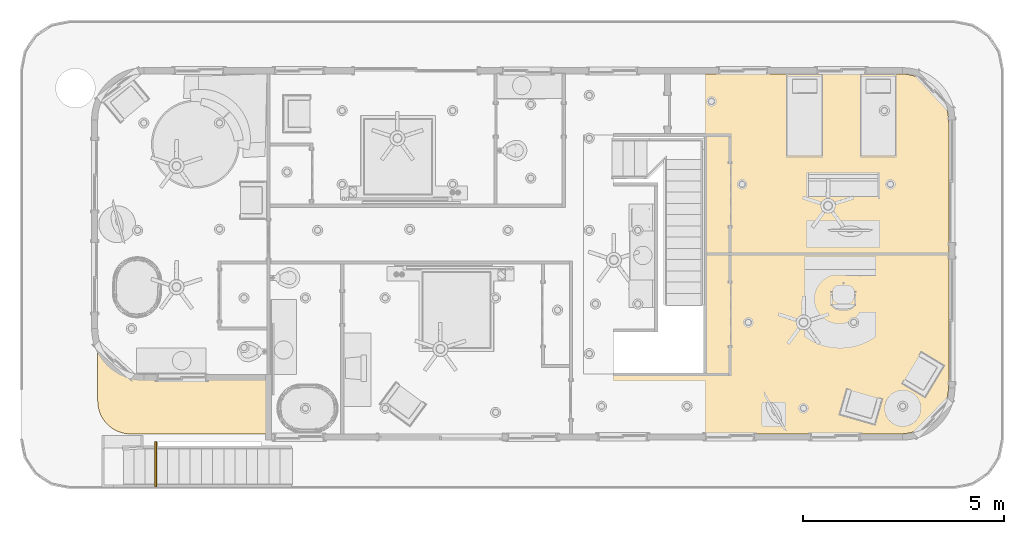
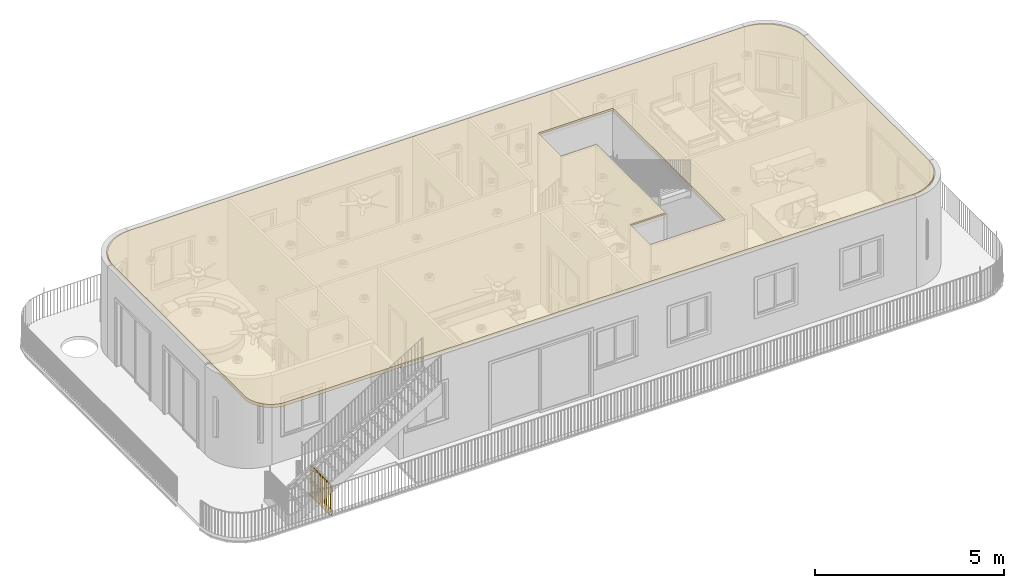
# One storey, part 10 of 28: 2 coverings, 1 railing.
"""IFC2X3 building model written with IfcOpenShell, lengths in feet."""

import ifcopenshell
import ifcopenshell.guid

model = None  # the IFC model being written
_history = None  # IfcOwnerHistory: only IFC2X3 demands one
_inside = {}  # id of a spatial element -> (the spatial element, [elements in it])
_under = {}  # id of a project, library or spatial element -> (it, [spatial elements below it])
_declared = {}  # id of a project -> (the project, [libraries it declares])
_typed = {}  # id of a type object -> (the type object, [elements of that type])
_made_of = {}  # id of a material, layer set ... -> (it, [elements and type objects made of it])


def new_model(schema):
    """Start an empty IFC model of exactly this schema.

    Asked for "IFC4X3", IfcOpenShell would pick the latest addendum, in which some entities
    have other attributes; the version numbers below select the first issue.
    IFC2X3 requires an IfcOwnerHistory on every rooted entity: one is made here for all.
    """
    global model, _history
    if schema == "IFC4X3":
        model = ifcopenshell.file(schema_version=(4, 3, 0, 0))
    else:
        model = ifcopenshell.file(schema=schema)
    _inside.clear()
    _under.clear()
    _declared.clear()
    _typed.clear()
    _made_of.clear()
    _history = None
    if model.schema == "IFC2X3":
        org = make("IfcOrganization", Name="unknown")
        user = make(
            "IfcPersonAndOrganization",
            ThePerson=make("IfcPerson", FamilyName="unknown"),
            TheOrganization=org,
        )
        app = make(
            "IfcApplication",
            ApplicationDeveloper=org,
            Version="unknown",
            ApplicationFullName="unknown",
            ApplicationIdentifier="unknown",
        )
        _history = make(
            "IfcOwnerHistory",
            OwningUser=user,
            OwningApplication=app,
            ChangeAction="ADDED",
            CreationDate=0,
        )
    return model


def make(cls, **values):
    """One entity of the class cls with the attributes given. An attribute that is None is left unset."""
    return model.create_entity(
        cls, **{name: value for name, value in values.items() if value is not None}
    )


def entity(cls, *values):
    """Any entity or typed value of the class cls, its attributes in the order of the schema. None: left unset."""
    e = model.create_entity(cls)
    for i, value in enumerate(values):
        if value is not None:
            e[i] = value
    return e


def rooted(cls, **values):
    """An entity with a GlobalId (a new one), such as an element, a storey or a relation."""
    return make(cls, GlobalId=ifcopenshell.guid.new(), OwnerHistory=_history, **values)


def si_unit(unit_type, name, prefix=None):
    """IfcSIUnit, for example si_unit("LENGTHUNIT", "METRE", prefix="MILLI")."""
    return make("IfcSIUnit", UnitType=unit_type, Prefix=prefix, Name=name)


def converted_unit(unit_type, name, factor, base, dimensions=None, offset=None):
    """IfcConversionBasedUnit, such as the inch: factor (a typed value) times the base unit."""
    return make(
        "IfcConversionBasedUnit"
        if offset is None
        else "IfcConversionBasedUnitWithOffset",
        ConversionOffset=offset,
        Dimensions=None
        if dimensions is None
        else entity("IfcDimensionalExponents", *dimensions),
        UnitType=unit_type,
        Name=name,
        ConversionFactor=make(
            "IfcMeasureWithUnit", ValueComponent=factor, UnitComponent=base
        ),
    )


def derived_unit(unit_type, elements):
    """IfcDerivedUnit: a product of units, each with its exponent."""
    return make(
        "IfcDerivedUnit",
        Elements=[
            make("IfcDerivedUnitElement", Unit=unit, Exponent=power)
            for unit, power in elements
        ],
        UnitType=unit_type,
    )


def assignment(units):
    """IfcUnitAssignment: the units of a project."""
    return None if units is None else make("IfcUnitAssignment", Units=units)


def point(xyz):
    """IfcCartesianPoint."""
    return None if xyz is None else make("IfcCartesianPoint", Coordinates=xyz)


def direction(xyz):
    """IfcDirection."""
    return None if xyz is None else make("IfcDirection", DirectionRatios=xyz)


def frame(location, z_axis=None, x_axis=None):
    """IfcAxis2Placement3D, a coordinate frame: its origin and axes. An axis left out is left unset."""
    return make(
        "IfcAxis2Placement3D",
        Location=point(location),
        Axis=direction(z_axis),
        RefDirection=direction(x_axis),
    )


def frame_2d(location, x_axis=None):
    """IfcAxis2Placement2D, a coordinate frame in the plane: its origin and x axis."""
    return make(
        "IfcAxis2Placement2D", Location=point(location), RefDirection=direction(x_axis)
    )


def origin():
    """The frame at (0, 0, 0) with its axes left unset."""
    return frame((0.0, 0.0, 0.0))


def origin_2d_with_axis():
    """The frame at (0, 0) in the plane with the x axis (1, 0) written out."""
    return frame_2d((0.0, 0.0), x_axis=(1.0, 0.0))


def place(relative_to, where):
    """IfcLocalPlacement: puts the frame where relative to a parent placement (None: the world)."""
    return make(
        "IfcLocalPlacement", PlacementRelTo=relative_to, RelativePlacement=where
    )


def context(
    kind, dimensions, precision=None, world=None, true_north=None, identifier=None
):
    """IfcGeometricRepresentationContext, for example the 3D "Model" context."""
    return make(
        "IfcGeometricRepresentationContext",
        ContextIdentifier=identifier,
        ContextType=kind,
        CoordinateSpaceDimension=dimensions,
        Precision=precision,
        WorldCoordinateSystem=world,
        TrueNorth=true_north,
    )


def subcontext(parent, identifier, kind, view, scale=None):
    """IfcGeometricRepresentationSubContext, for example "Body" below "Model"."""
    return make(
        "IfcGeometricRepresentationSubContext",
        ContextIdentifier=identifier,
        ContextType=kind,
        ParentContext=parent,
        TargetScale=scale,
        TargetView=view,
    )


def project(units=None, contexts=None):
    """IfcProject with its units and contexts."""
    return rooted(
        "IfcProject",
        Name="project",
        RepresentationContexts=contexts,
        UnitsInContext=assignment(units),
    )


def spatial(cls, under=None, at=None, **own):
    """A site, building, storey or space (cls), placed at a placement, below another one or the project."""
    s = rooted(cls, ObjectPlacement=at, **own)
    if under is not None:
        _under.setdefault(under.id(), (under, []))[1].append(s)
    return s


def polyline(points):
    """IfcPolyline through the points."""
    return make("IfcPolyline", Points=[point(p) for p in points])


def circle_curve(where, radius):
    """IfcCircle in the frame where."""
    return make("IfcCircle", Position=where, Radius=radius)


def parameter(value):
    """IfcParameterValue: where a trimmed curve begins or ends, as a parameter of its basis curve."""
    return model.create_entity("IfcParameterValue", value)


def trimmed(basis, trim1, trim2, sense, master):
    """IfcTrimmedCurve: the piece of a basis curve between two trims."""
    return make(
        "IfcTrimmedCurve",
        BasisCurve=basis,
        Trim1=trim1,
        Trim2=trim2,
        SenseAgreement=sense,
        MasterRepresentation=master,
    )


def segment(curve, same_sense, transition):
    """IfcCompositeCurveSegment."""
    return make(
        "IfcCompositeCurveSegment",
        Transition=transition,
        SameSense=same_sense,
        ParentCurve=curve,
    )


def composite_curve(segments, self_intersect=None):
    """IfcCompositeCurve: segments joined end to end."""
    return make("IfcCompositeCurve", Segments=segments, SelfIntersect=self_intersect)


def profile(cls, at=None, kind="AREA", **sizes):
    """A parametric profile (cls). Its sizes go by their IFC names, for example OverallWidth=200.0."""
    return make(cls, ProfileType=kind, Position=at, **sizes)


def rectangle(**sizes):
    """IfcRectangleProfileDef."""
    return profile("IfcRectangleProfileDef", **sizes)


def circle(**sizes):
    """IfcCircleProfileDef."""
    return profile("IfcCircleProfileDef", **sizes)


def outline(outer, holes=None, kind="AREA"):
    """IfcArbitraryClosedProfileDef: a profile drawn as a closed curve; with holes, ...WithVoids."""
    if holes is None:
        return make("IfcArbitraryClosedProfileDef", ProfileType=kind, OuterCurve=outer)
    return make(
        "IfcArbitraryProfileDefWithVoids",
        ProfileType=kind,
        OuterCurve=outer,
        InnerCurves=holes,
    )


def extrude(swept, where, along, depth):
    """IfcExtrudedAreaSolid: the profile swept, set in the frame where, extruded along a direction by depth."""
    return make(
        "IfcExtrudedAreaSolid",
        SweptArea=swept,
        Position=where,
        ExtrudedDirection=direction(along),
        Depth=depth,
    )


def shape(context_of_items, identifier, shape_type, items):
    """IfcShapeRepresentation: the items that make up one representation, for example the "Body"."""
    return make(
        "IfcShapeRepresentation",
        ContextOfItems=context_of_items,
        RepresentationIdentifier=identifier,
        RepresentationType=shape_type,
        Items=items,
    )


def material(Name=None, Category=None):
    """IfcMaterial."""
    return make("IfcMaterial", Name=Name, Category=Category)


def layer(
    of_material, thickness, ventilated=None, Name=None, Category=None, Priority=None
):
    """IfcMaterialLayer: one layer of a wall or slab, of a material (None: an air gap)."""
    return make(
        "IfcMaterialLayer",
        Material=of_material,
        LayerThickness=thickness,
        IsVentilated=ventilated,
        Name=Name,
        Category=Category,
        Priority=Priority,
    )


def layer_set(layers, Name=None):
    """IfcMaterialLayerSet."""
    return make("IfcMaterialLayerSet", MaterialLayers=layers, LayerSetName=Name)


def layer_usage(for_layer_set, set_direction, sense, offset, extent=None):
    """IfcMaterialLayerSetUsage: how a layer set lies in its element."""
    return make(
        "IfcMaterialLayerSetUsage",
        ForLayerSet=for_layer_set,
        LayerSetDirection=set_direction,
        DirectionSense=sense,
        OffsetFromReferenceLine=offset,
        ReferenceExtent=extent,
    )


def made_of(thing, what):
    """Note that an element or type object is made of a material, layer set ...; save() writes the relation."""
    if what is not None:
        _made_of.setdefault(what.id(), (what, []))[1].append(thing)
    return thing


def element(
    cls,
    number,
    at=None,
    inside=None,
    cuts=None,
    type_object=None,
    material=None,
    context=None,
    identifier="Body",
    shape_type=None,
    held_by="IfcProductDefinitionShape",
    body=None,
    shapes=None,
    **own,
):
    """One element of the class cls, such as IfcWall. Its Tag is "e" and its number.

    at: its placement. inside: the storey or other place that contains it. cuts: it is an
    opening in that element (IfcRelVoidsElement). A single representation is given by context,
    identifier, shape_type and body (its items); several are given by shapes. held_by: the class
    of the entity that holds the representations. save() writes the other relations.
    """
    e = rooted(cls, Tag="e%d" % number, ObjectPlacement=at, **own)
    if body is not None:
        shapes = [shape(context, identifier, shape_type, body)]
    if shapes is not None:
        e.Representation = make(held_by, Representations=shapes)
    if inside is not None:
        _inside.setdefault(inside.id(), (inside, []))[1].append(e)
    if cuts is not None:
        rooted(
            "IfcRelVoidsElement", RelatingBuildingElement=cuts, RelatedOpeningElement=e
        )
    if type_object is not None:
        _typed.setdefault(type_object.id(), (type_object, []))[1].append(e)
    return made_of(e, material)


def aggregate(whole, parts):
    """IfcRelAggregates: a whole, such as a stair, and the parts it consists of."""
    return rooted("IfcRelAggregates", RelatingObject=whole, RelatedObjects=parts)


def save(model, path):
    """Write the relations noted so far, then the file.

    IfcRelAggregates (storeys below a building ...), IfcRelContainedInSpatialStructure (elements
    in a storey), IfcRelDefinesByType, IfcRelAssociatesMaterial and IfcRelDeclares: one each for
    every whole, place, type object, material and project.
    """
    for whole, parts in _under.values():
        aggregate(whole, parts)
    for where, things in _inside.values():
        rooted(
            "IfcRelContainedInSpatialStructure",
            RelatedElements=things,
            RelatingStructure=where,
        )
    for kind, things in _typed.values():
        rooted("IfcRelDefinesByType", RelatedObjects=things, RelatingType=kind)
    for what, things in _made_of.values():
        rooted("IfcRelAssociatesMaterial", RelatedObjects=things, RelatingMaterial=what)
    for by, libraries in _declared.values():
        rooted("IfcRelDeclares", RelatingContext=by, RelatedDefinitions=libraries)
    model.write(path)


model = new_model("IFC2X3")

# Units and contexts
model_context = context("Model", 3, precision=0.0001, world=origin(), true_north=direction((6.12303176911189e-17, 1.0)))
body_context = subcontext(model_context, "Body", "Model", "MODEL_VIEW")
ifc_project = project(units=[converted_unit("LENGTHUNIT", "FOOT", entity("IfcRatioMeasure", 0.3048), si_unit("LENGTHUNIT", "METRE"), dimensions=[1, 0, 0, 0, 0, 0, 0]), converted_unit("AREAUNIT", "SQUARE FOOT", entity("IfcRatioMeasure", 0.09290304), si_unit("AREAUNIT", "SQUARE_METRE"), dimensions=[2, 0, 0, 0, 0, 0, 0]), converted_unit("VOLUMEUNIT", "CUBIC FOOT", entity("IfcRatioMeasure", 0.028316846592), si_unit("VOLUMEUNIT", "CUBIC_METRE"), dimensions=[3, 0, 0, 0, 0, 0, 0]), converted_unit("PLANEANGLEUNIT", "DEGREE", entity("IfcRatioMeasure", 0.0174532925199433), si_unit("PLANEANGLEUNIT", "RADIAN"), dimensions=[0, 0, 0, 0, 0, 0, 0]), si_unit("MASSUNIT", "GRAM", prefix="KILO"), derived_unit("MASSDENSITYUNIT", [(si_unit("MASSUNIT", "GRAM", prefix="KILO"), 1), (si_unit("LENGTHUNIT", "METRE"), -3)]), si_unit("TIMEUNIT", "SECOND"), si_unit("FREQUENCYUNIT", "HERTZ"), si_unit("THERMODYNAMICTEMPERATUREUNIT", "DEGREE_CELSIUS"), derived_unit("THERMALTRANSMITTANCEUNIT", [(si_unit("MASSUNIT", "GRAM", prefix="KILO"), 1), (si_unit("THERMODYNAMICTEMPERATUREUNIT", "KELVIN"), -1), (si_unit("TIMEUNIT", "SECOND"), -3)]), derived_unit("VOLUMETRICFLOWRATEUNIT", [(si_unit("LENGTHUNIT", "METRE"), 3), (si_unit("TIMEUNIT", "SECOND"), -1)]), si_unit("ELECTRICCURRENTUNIT", "AMPERE"), si_unit("ELECTRICVOLTAGEUNIT", "VOLT"), si_unit("POWERUNIT", "WATT"), si_unit("FORCEUNIT", "NEWTON"), si_unit("ILLUMINANCEUNIT", "LUX"), si_unit("LUMINOUSFLUXUNIT", "LUMEN"), si_unit("LUMINOUSINTENSITYUNIT", "CANDELA"), derived_unit("USERDEFINED", [(si_unit("MASSUNIT", "GRAM", prefix="KILO"), -1), (si_unit("LENGTHUNIT", "METRE"), -2), (si_unit("TIMEUNIT", "SECOND"), 3), (si_unit("LUMINOUSFLUXUNIT", "LUMEN"), 1)]), derived_unit("LINEARVELOCITYUNIT", [(si_unit("LENGTHUNIT", "METRE"), 1), (si_unit("TIMEUNIT", "SECOND"), -1)]), si_unit("PRESSUREUNIT", "PASCAL"), derived_unit("USERDEFINED", [(si_unit("LENGTHUNIT", "METRE"), -2), (si_unit("MASSUNIT", "GRAM", prefix="KILO"), 1), (si_unit("TIMEUNIT", "SECOND"), -2)])], contexts=[model_context])

# Site, building, storey
site_placement = place(None, origin())
site = spatial("IfcSite", under=ifc_project, at=site_placement, Name="表面", CompositionType="ELEMENT")
building_placement = place(site_placement, origin())
building = spatial("IfcBuilding", under=site, at=building_placement, CompositionType="ELEMENT")
storey_placement = place(building_placement, frame((0.0, 0.0, 10.0)))
storey = spatial("IfcBuildingStorey", under=building, at=storey_placement, Name="Level 2", CompositionType="ELEMENT", Elevation=9.99999999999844)

# Coverings
ifc_material_1 = material(Name="Metal - Stud Layer")
ifc_layer_1 = layer(ifc_material_1, 0.302083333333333)
ifc_material_2 = material(Name="Gypsum Wall Board")
ifc_layer_2 = layer(ifc_material_2, 0.0520833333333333)
ifc_layer_set = layer_set([ifc_layer_1, ifc_layer_2], Name="复合天花板:GWB on Mtl. Stud")
ifc_layer_usage_1 = layer_usage(ifc_layer_set, "AXIS3", "POSITIVE", 0.0)
covering_1_placement = place(storey_placement, origin())
element("IfcCovering", 1, at=covering_1_placement, inside=storey, material=ifc_layer_usage_1, Name="复合天花板:GWB on Mtl. Stud", ObjectType="复合天花板:GWB on Mtl. Stud", PredefinedType="CEILING", context=body_context, shape_type="SweptSolid", body=[
    extrude(outline(composite_curve([segment(trimmed(circle_curve(frame_2d((-31.8333333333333, -11.8333333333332), x_axis=(1.0, 0.0)), 2.66666666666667), [parameter(180.0)], [parameter(270.0)], True, "PARAMETER"), True, "CONTINUOUS"), segment(polyline([(-31.8333333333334, -14.4999999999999), (30.8333333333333, -14.5000000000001)]), True, "CONTINUOUS"), segment(trimmed(circle_curve(frame_2d((30.8333333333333, -10.5000000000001), x_axis=(1.0, 0.0)), 4.0), [parameter(269.999999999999)], [parameter(360.0)], True, "PARAMETER"), True, "CONTINUOUS"), segment(polyline([(34.8333333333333, -10.5000000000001), (34.8333333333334, 10.8333333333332)]), True, "CONTINUOUS"), segment(trimmed(circle_curve(frame_2d((30.8333333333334, 10.8333333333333), x_axis=(1.0, 0.0)), 4.0), [parameter(359.999999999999)], [parameter(89.9999999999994)], True, "PARAMETER"), True, "CONTINUOUS"), segment(polyline([(30.8333333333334, 14.8333333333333), (-30.5, 14.8333333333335)]), True, "CONTINUOUS"), segment(trimmed(circle_curve(frame_2d((-30.5, 10.8333333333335), x_axis=(1.0, 0.0)), 4.0), [parameter(89.9999999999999)], [parameter(180.0)], True, "PARAMETER"), True, "CONTINUOUS"), segment(polyline([(-34.5, 10.8333333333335), (-34.5, -11.8333333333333)]), True, "CONTINUOUS")], self_intersect=False), holes=[polyline([(15.0, 9.8333333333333), (15.0, -9.64427647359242), (7.49999999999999, -9.64427647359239), (7.5, -6.16666666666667), (11.0, -6.16666666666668), (11.0, 5.83333333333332), (7.50000000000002, 5.83333333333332), (7.50000000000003, 9.83333333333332), (15.0, 9.8333333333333)])]), frame((0.715086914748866, 1.59906036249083, 9.64583333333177)), (0.0, 0.0, 1.0), 0.354166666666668),
])
ifc_layer_usage_2 = layer_usage(ifc_layer_set, "AXIS3", "POSITIVE", 0.0)
covering_2_placement = place(storey_placement, origin())
element("IfcCovering", 2, at=covering_2_placement, inside=storey, material=ifc_layer_usage_2, Name="复合天花板:GWB on Mtl. Stud", ObjectType="复合天花板:GWB on Mtl. Stud", PredefinedType="CEILING", context=body_context, shape_type="SweptSolid", body=[
    extrude(outline(composite_curve([segment(trimmed(circle_curve(frame_2d((-26.5666666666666, 12.1000000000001), x_axis=(1.0, 0.0)), 4.0), [parameter(89.9999999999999)], [parameter(180.0)], True, "PARAMETER"), True, "CONTINUOUS"), segment(polyline([(-30.5666666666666, 12.1000000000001), (-30.5666666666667, -4.2333333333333)]), True, "CONTINUOUS"), segment(trimmed(circle_curve(frame_2d((-26.5666666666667, -4.23333333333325), x_axis=(1.0, 0.0)), 4.0), [parameter(180.0)], [parameter(270.0)], True, "PARAMETER"), True, "CONTINUOUS"), segment(polyline([(-26.5666666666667, -8.23333333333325), (-16.4, -8.23333333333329)]), True, "CONTINUOUS"), segment(polyline([(-16.4, -8.23333333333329), (-16.4, -13.2333333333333)]), True, "CONTINUOUS"), segment(polyline([(-16.4, -13.2333333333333), (34.7666666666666, -13.2333333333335)]), True, "CONTINUOUS"), segment(trimmed(circle_curve(frame_2d((34.7666666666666, -9.23333333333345), x_axis=(1.0, 0.0)), 4.0), [parameter(269.999999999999)], [parameter(359.999999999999)], True, "PARAMETER"), True, "CONTINUOUS"), segment(polyline([(38.7666666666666, -9.23333333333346), (38.7666666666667, 12.0999999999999)]), True, "CONTINUOUS"), segment(trimmed(circle_curve(frame_2d((34.7666666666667, 12.0999999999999), x_axis=(1.0, 0.0)), 4.0), [parameter(359.999999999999)], [parameter(89.9999999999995)], True, "PARAMETER"), True, "CONTINUOUS"), segment(polyline([(34.7666666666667, 16.0999999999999), (-26.5666666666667, 16.1000000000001)]), True, "CONTINUOUS")], self_intersect=False), holes=[polyline([(18.9333333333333, 11.1), (18.9333333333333, -8.37760980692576), (11.4333333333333, -8.37760980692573), (11.4333333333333, -4.90000000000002), (14.9333333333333, -4.90000000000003), (14.9333333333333, 7.09999999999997), (11.4333333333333, 7.09999999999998), (11.4333333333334, 11.1), (18.9333333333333, 11.1)])]), frame((-3.21824641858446, 0.33239369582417, 9.5)), (0.0, 0.0, 1.0), 0.354166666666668),
])

# Railing
railing_placement = place(storey_placement, origin())
element("IfcRailing", 3, at=railing_placement, inside=storey, Name="栏杆扶手:Handrail - Rectangular", ObjectType="栏杆扶手:Handrail - Rectangular", PredefinedType="NOTDEFINED", context=body_context, shape_type="SweptSolid", body=[
    extrude(rectangle(XDim=0.0625, YDim=0.0625, at=origin_2d_with_axis()), frame((-29.0036630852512, -13.5676063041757, 0.0), z_axis=(0.0, 0.0, 1.0), x_axis=(0.0, 1.0, 0.0)), (0.0, 0.0, 1.0), 2.91666666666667),
    extrude(rectangle(XDim=0.0625, YDim=0.0625, at=origin_2d_with_axis()), frame((-29.0036630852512, -13.9009396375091, 0.0), z_axis=(0.0, 0.0, 1.0), x_axis=(0.0, 1.0, 0.0)), (0.0, 0.0, 1.0), 2.91666666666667),
    extrude(rectangle(XDim=0.0625, YDim=0.0625, at=origin_2d_with_axis()), frame((-29.0036630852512, -14.2342729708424, 0.0), z_axis=(0.0, 0.0, 1.0), x_axis=(0.0, 1.0, 0.0)), (0.0, 0.0, 1.0), 2.91666666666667),
    extrude(rectangle(XDim=0.0625, YDim=0.0625, at=origin_2d_with_axis()), frame((-29.0036630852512, -14.5676063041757, 0.0), z_axis=(0.0, 0.0, 1.0), x_axis=(0.0, 1.0, 0.0)), (0.0, 0.0, 1.0), 2.91666666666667),
    extrude(rectangle(XDim=0.0625, YDim=0.0625, at=origin_2d_with_axis()), frame((-29.0036630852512, -14.9009396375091, 0.0), z_axis=(0.0, 0.0, 1.0), x_axis=(0.0, 1.0, 0.0)), (0.0, 0.0, 1.0), 2.91666666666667),
    extrude(rectangle(XDim=0.0625, YDim=0.0625, at=origin_2d_with_axis()), frame((-29.0036630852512, -15.2342729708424, 0.0), z_axis=(0.0, 0.0, 1.0), x_axis=(0.0, 1.0, 0.0)), (0.0, 0.0, 1.0), 2.91666666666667),
    extrude(rectangle(XDim=0.0625, YDim=0.0625, at=origin_2d_with_axis()), frame((-29.0036630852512, -15.5676063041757, 0.0), z_axis=(0.0, 0.0, 1.0), x_axis=(0.0, 1.0, 0.0)), (0.0, 0.0, 1.0), 2.91666666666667),
    extrude(rectangle(XDim=0.0625, YDim=0.0625, at=origin_2d_with_axis()), frame((-29.0036630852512, -15.9009396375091, 0.0), z_axis=(0.0, 0.0, 1.0), x_axis=(0.0, 1.0, 0.0)), (0.0, 0.0, 1.0), 2.91666666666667),
    extrude(rectangle(XDim=0.0625, YDim=0.0625, at=origin_2d_with_axis()), frame((-29.0036630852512, -16.2342729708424, 0.0), z_axis=(0.0, 0.0, 1.0), x_axis=(0.0, 1.0, 0.0)), (0.0, 0.0, 1.0), 2.91666666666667),
    extrude(rectangle(XDim=0.0625, YDim=0.0625, at=origin_2d_with_axis()), frame((-29.0036630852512, -16.5676063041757, 0.0), z_axis=(0.0, 0.0, 1.0), x_axis=(0.0, 1.0, 0.0)), (0.0, 0.0, 1.0), 2.91666666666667),
    extrude(rectangle(XDim=0.0625, YDim=0.0625, at=origin_2d_with_axis()), frame((-29.0036630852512, -16.9009396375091, 0.0), z_axis=(0.0, 0.0, 1.0), x_axis=(0.0, 1.0, 0.0)), (0.0, 0.0, 1.0), 2.91666666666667),
    extrude(rectangle(XDim=0.0625, YDim=0.0625, at=origin_2d_with_axis()), frame((-29.0036630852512, -13.5546013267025, 0.0), z_axis=(0.0, 0.0, 1.0), x_axis=(0.0, 1.0, 0.0)), (0.0, 0.0, 1.0), 2.91666666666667),
    extrude(rectangle(XDim=0.0625, YDim=0.0625, at=origin_2d_with_axis()), frame((-29.0036630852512, -17.2030229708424, 0.0), z_axis=(0.0, 0.0, 1.0), x_axis=(0.0, 1.0, 0.0)), (0.0, 0.0, 1.0), 2.91666666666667),
    extrude(rectangle(XDim=3.7109216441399, YDim=0.166666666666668, at=frame_2d((0.0, -1.77635683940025e-15), x_axis=(1.0, 0.0))), frame((-29.0869964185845, -15.3788121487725, -0.166666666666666), z_axis=(0.0, 0.0, 1.0), x_axis=(0.0, 1.0, 0.0)), (0.0, 0.0, 1.0), 0.166666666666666),
    extrude(circle(Radius=0.0416666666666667, at=origin_2d_with_axis()), frame((-29.0036630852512, -17.2342729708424, 2.95833333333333), z_axis=(0.0, 1.0, 0.0), x_axis=(1.0, 0.0, 0.0)), (0.0, 0.0, 1.0), 3.7109216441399),
])

save(model, "model.ifc")
